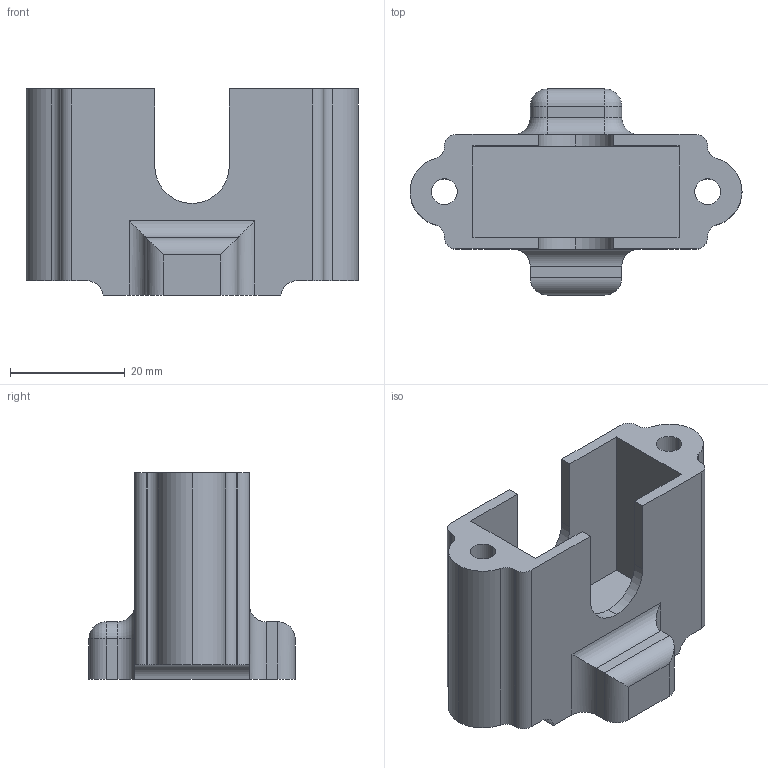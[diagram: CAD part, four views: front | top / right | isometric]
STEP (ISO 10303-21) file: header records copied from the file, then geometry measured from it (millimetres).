
FILE_DESCRIPTION (( 'STEP AP214' ), '1' );
FILE_NAME ('2022-06 - PELTIER BOX.STEP', '2023-01-14T15:00:45', ( '' ), ( '' ), 'SwSTEP 2.0', 'SolidWorks 2020', '' );
FILE_SCHEMA (( 'AUTOMOTIVE_DESIGN' ));
Length unit declared in the file: millimetre
Products named in the file (1): 2022-06 - PELTIER BOX
Bounding box: 57.98 x 36 x 36 mm (x, y, z)
Volume: 18952.4 mm3; surface area: 11145.9 mm2
Topology: 1 solids, 1 shells, 81 faces, 215 edges, 134 vertices
Faces by surface type: cylinder 43, plane 30, cone 4, sphere 2, torus 2
Entity records: 2561 total; most frequent: DIRECTION 449, CARTESIAN_POINT 437, ORIENTED_EDGE 418, EDGE_CURVE 209, AXIS2_PLACEMENT_3D 162, VERTEX_POINT 134, LINE 125, VECTOR 125
